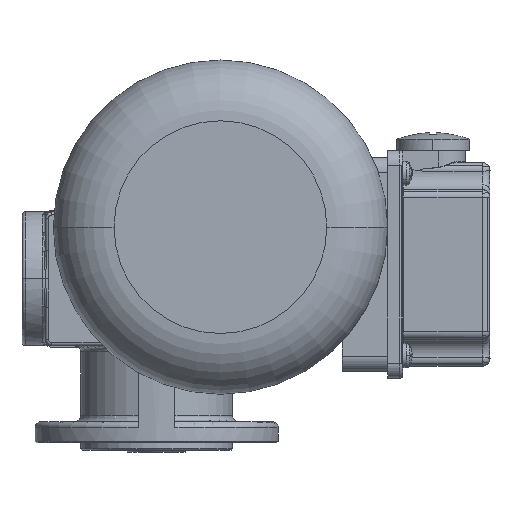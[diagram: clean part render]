
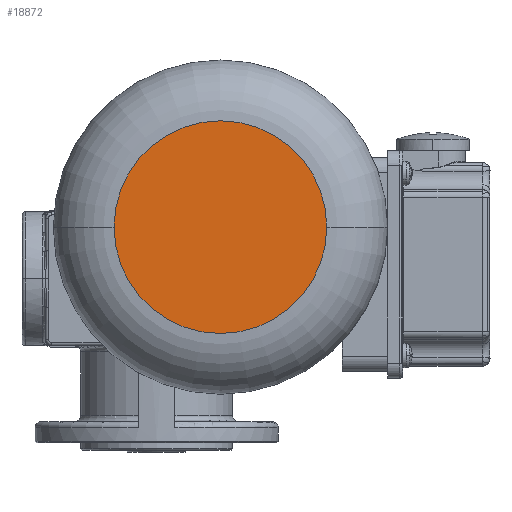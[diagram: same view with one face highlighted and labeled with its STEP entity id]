
A CAD part, left-side view. The second image highlights one B-rep face of the part: STEP entity #18872.
In plain terms, the highlighted planar face has unit normal (-1, 0, 0).
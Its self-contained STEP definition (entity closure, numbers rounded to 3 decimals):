
#265 = VERTEX_POINT ( 'NONE', #22488 ) ;
#372 = AXIS2_PLACEMENT_3D ( 'NONE', #27728, #21762, #10789 ) ;
#2834 = ORIENTED_EDGE ( 'NONE', *, *, #10755, .T. ) ;
#4205 = PLANE ( 'NONE',  #372 ) ;
#4249 = CIRCLE ( 'NONE', #23900, 35. ) ;
#5192 = CARTESIAN_POINT ( 'NONE',  ( 0., 0., -35. ) ) ;
#5494 = CARTESIAN_POINT ( 'NONE',  ( 0., 0., 0. ) ) ;
#7564 = VERTEX_POINT ( 'NONE', #5192 ) ;
#8898 = DIRECTION ( 'NONE',  ( -1., 0., 0. ) ) ;
#10228 = DIRECTION ( 'NONE',  ( -1., 0., 0. ) ) ;
#10755 = EDGE_CURVE ( 'NONE', #7564, #265, #13262, .T. ) ;
#10789 = DIRECTION ( 'NONE',  ( 0., 0., -1. ) ) ;
#13082 = FACE_OUTER_BOUND ( 'NONE', #24552, .T. ) ;
#13262 = CIRCLE ( 'NONE', #17794, 35. ) ;
#14237 = DIRECTION ( 'NONE',  ( 0., 0., -1. ) ) ;
#14617 = ORIENTED_EDGE ( 'NONE', *, *, #20851, .T. ) ;
#17794 = AXIS2_PLACEMENT_3D ( 'NONE', #24148, #8898, #24427 ) ;
#18872 = ADVANCED_FACE ( 'NONE', ( #13082 ), #4205, .F. ) ;
#20851 = EDGE_CURVE ( 'NONE', #265, #7564, #4249, .T. ) ;
#21762 = DIRECTION ( 'NONE',  ( 1., 0., 0. ) ) ;
#22488 = CARTESIAN_POINT ( 'NONE',  ( 0., 0., 35. ) ) ;
#23900 = AXIS2_PLACEMENT_3D ( 'NONE', #5494, #10228, #14237 ) ;
#24148 = CARTESIAN_POINT ( 'NONE',  ( 0., 0., 0. ) ) ;
#24427 = DIRECTION ( 'NONE',  ( 0., 0., -1. ) ) ;
#24552 = EDGE_LOOP ( 'NONE', ( #2834, #14617 ) ) ;
#27728 = CARTESIAN_POINT ( 'NONE',  ( 0., 0., 0. ) ) ;
